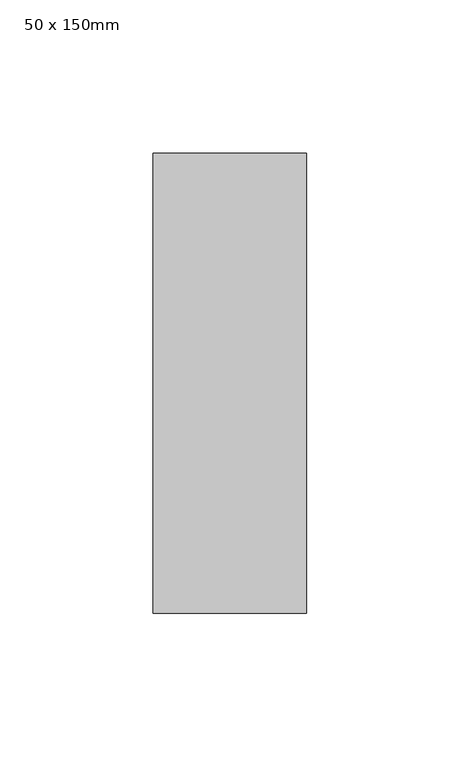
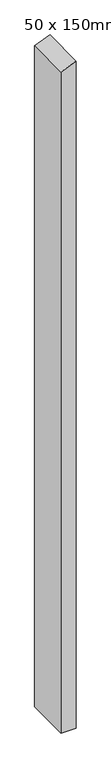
"""IFC4 building model written with IfcOpenShell, lengths in millimetres: member geometry, Prostokątny szpros : 50 x 150mm."""

from ifc_helpers import new_model, si_unit, frame, origin, place, context, project, spatial, polyline, outline, extrude, source, transform, mapped, element, save


def member_50_x_150mm_8a71f9f9(model_context):
    return source(origin(), model_context, "Body", "SweptSolid", [
        extrude(outline(polyline([(0.0, 0.0), (-20.7106781, -50.0), (-2321.4466096, -50.0), (-2321.4466096, 0.0), (0.0, 0.0)])), frame((0.0, -75.0, 0.0), z_axis=(0.0, 1.0, 0.0), x_axis=(0.0, 0.0, 1.0)), (0.0, 0.0, 1.0), 150.0),
    ])


if __name__ == "__main__":
    model = new_model("IFC4")
    model_context = context("Model", 3, world=origin())
    ifc_project = project(units=[si_unit("LENGTHUNIT", "METRE", prefix="MILLI")], contexts=[model_context])
    site = spatial("IfcSite", under=ifc_project)
    building = spatial("IfcBuilding", under=site)
    placement = place(None, origin())
    member_50_x_150mm_shape = member_50_x_150mm_8a71f9f9(model_context)
    element("IfcMember", 1, ObjectType="Prostokątny szpros : 50 x 150mm", at=placement, inside=building, context=model_context, shape_type="MappedRepresentation", body=[
        mapped(member_50_x_150mm_shape, transform((0.0, 0.0, 0.0), x_axis=(1.0, 0.0, 0.0), y_axis=(0.0, 1.0, 0.0), z_axis=(0.0, 0.0, 1.0))),
    ])
    save(model, "model.ifc")
